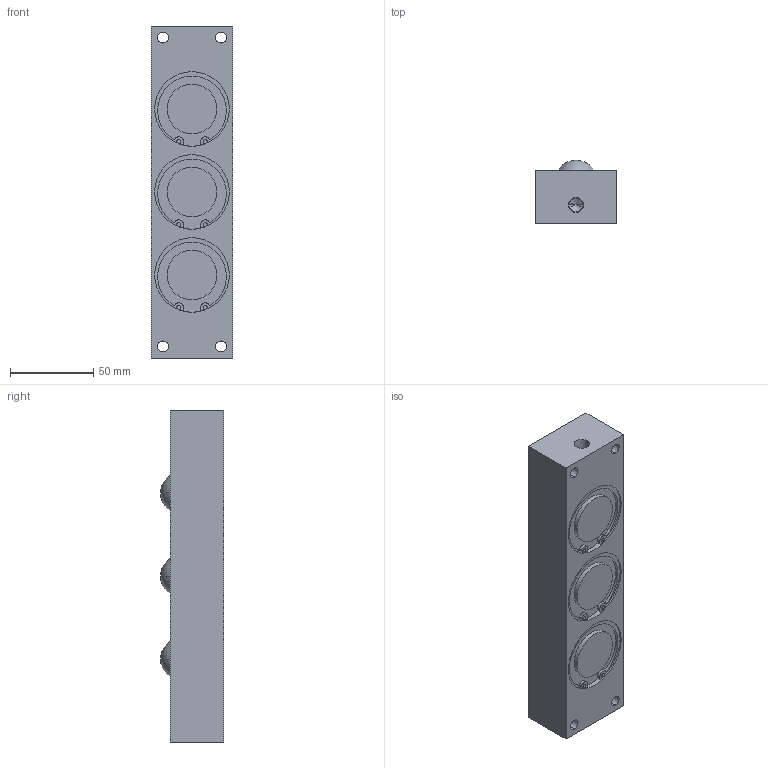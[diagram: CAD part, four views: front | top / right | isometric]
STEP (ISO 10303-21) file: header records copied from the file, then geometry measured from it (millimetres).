
FILE_DESCRIPTION (( 'STEP AP203' ), '1' );
FILE_NAME ('PVL55SL-3.STEP', '2016-01-06T00:30:22', ( '' ), ( '' ), 'SwSTEP 2.0', 'SolidWorks 2013', '' );
FILE_SCHEMA (( 'CONFIG_CONTROL_DESIGN' ));
Length unit declared in the file: millimetre
Products named in the file (1): PVL55SL-3
Bounding box: 49 x 38 x 200 mm (x, y, z)
Volume: 304746.6 mm3; surface area: 46425.2 mm2
Topology: 1 solids, 1 shells, 150 faces, 367 edges, 244 vertices
Faces by surface type: cylinder 96, plane 44, sphere 6, cone 4
Entity records: 4624 total; most frequent: DIRECTION 893, CARTESIAN_POINT 760, ORIENTED_EDGE 730, AXIS2_PLACEMENT_3D 377, EDGE_CURVE 365, VERTEX_POINT 244, CIRCLE 226, EDGE_LOOP 185
